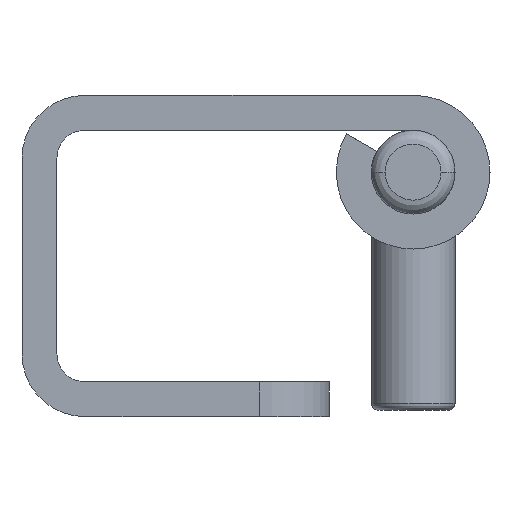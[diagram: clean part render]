
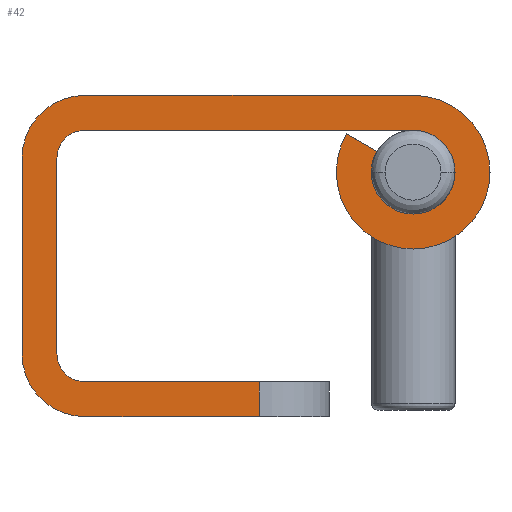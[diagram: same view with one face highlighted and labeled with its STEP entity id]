
A CAD part, front view. The second image highlights one B-rep face of the part: STEP entity #42.
In plain terms, the highlighted planar face has unit normal (0, -1, 0).
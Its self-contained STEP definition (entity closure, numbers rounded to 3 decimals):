
#42=ADVANCED_FACE('',(#110),#1124,.T.);
#110=FACE_OUTER_BOUND('',#182,.T.);
#182=EDGE_LOOP('',(#292,#293,#294,#295,#296,#297,#298,#299,#300,#301,#302,
#303,#304,#305));
#292=ORIENTED_EDGE('',*,*,#620,.F.);
#293=ORIENTED_EDGE('',*,*,#617,.F.);
#294=ORIENTED_EDGE('',*,*,#614,.F.);
#295=ORIENTED_EDGE('',*,*,#611,.F.);
#296=ORIENTED_EDGE('',*,*,#608,.F.);
#297=ORIENTED_EDGE('',*,*,#605,.F.);
#298=ORIENTED_EDGE('',*,*,#602,.F.);
#299=ORIENTED_EDGE('',*,*,#599,.F.);
#300=ORIENTED_EDGE('',*,*,#596,.F.);
#301=ORIENTED_EDGE('',*,*,#592,.F.);
#302=ORIENTED_EDGE('',*,*,#632,.F.);
#303=ORIENTED_EDGE('',*,*,#629,.F.);
#304=ORIENTED_EDGE('',*,*,#626,.F.);
#305=ORIENTED_EDGE('',*,*,#682,.F.);
#592=EDGE_CURVE('',#1008,#1009,#864,.T.);
#596=EDGE_CURVE('',#1009,#1012,#764,.T.);
#599=EDGE_CURVE('',#1012,#1014,#866,.T.);
#602=EDGE_CURVE('',#1014,#1016,#767,.T.);
#605=EDGE_CURVE('',#1016,#1018,#868,.T.);
#608=EDGE_CURVE('',#1018,#1020,#770,.T.);
#611=EDGE_CURVE('',#1020,#1022,#870,.T.);
#614=EDGE_CURVE('',#1022,#1024,#773,.T.);
#617=EDGE_CURVE('',#1024,#1026,#872,.T.);
#620=EDGE_CURVE('',#1026,#1064,#776,.T.);
#626=EDGE_CURVE('',#1070,#1028,#782,.T.);
#629=EDGE_CURVE('',#1028,#1030,#874,.T.);
#632=EDGE_CURVE('',#1030,#1008,#785,.T.);
#682=EDGE_CURVE('',#1064,#1070,#810,.T.);
#764=B_SPLINE_CURVE_WITH_KNOTS('',1,(#1730,#1731),.UNSPECIFIED.,.F.,.F.,
(2,2),(125.517,149.017),.UNSPECIFIED.);
#767=B_SPLINE_CURVE_WITH_KNOTS('',1,(#1744,#1745),.UNSPECIFIED.,.F.,.F.,
(2,2),(177.815,180.315),.UNSPECIFIED.);
#770=B_SPLINE_CURVE_WITH_KNOTS('',1,(#1758,#1759),.UNSPECIFIED.,.F.,.F.,
(2,2),(196.023,219.523),.UNSPECIFIED.);
#773=B_SPLINE_CURVE_WITH_KNOTS('',1,(#1772,#1773),.UNSPECIFIED.,.F.,.F.,
(2,2),(222.664,236.664),.UNSPECIFIED.);
#776=B_SPLINE_CURVE_WITH_KNOTS('',1,(#1786,#1787),.UNSPECIFIED.,.F.,.F.,
(2,2),(239.806,252.306),.UNSPECIFIED.);
#782=B_SPLINE_CURVE_WITH_KNOTS('',1,(#1798,#1799),.UNSPECIFIED.,.F.,.F.,
(2,2),(264.806,277.306),.UNSPECIFIED.);
#785=B_SPLINE_CURVE_WITH_KNOTS('',1,(#1812,#1813),.UNSPECIFIED.,.F.,.F.,
(2,2),(284.375,298.375),.UNSPECIFIED.);
#810=B_SPLINE_CURVE_WITH_KNOTS('',1,(#1928,#1929),.UNSPECIFIED.,.F.,.F.,
(2,2),(0.,2.5),.UNSPECIFIED.);
#864=TRIMMED_CURVE($,#936,(#1721),(#1722),.T.,.CARTESIAN.);
#866=TRIMMED_CURVE($,#938,(#1737),(#1738),.T.,.CARTESIAN.);
#868=TRIMMED_CURVE($,#940,(#1751),(#1752),.T.,.CARTESIAN.);
#870=TRIMMED_CURVE($,#942,(#1765),(#1766),.T.,.CARTESIAN.);
#872=TRIMMED_CURVE($,#944,(#1779),(#1780),.T.,.CARTESIAN.);
#874=TRIMMED_CURVE($,#946,(#1805),(#1806),.T.,.CARTESIAN.);
#936=CIRCLE('',#1306,4.5);
#938=CIRCLE('',#1308,5.5);
#940=CIRCLE('',#1310,3.);
#942=CIRCLE('',#1312,2.);
#944=CIRCLE('',#1314,2.);
#946=CIRCLE('',#1316,4.5);
#1008=VERTEX_POINT('',#1652);
#1009=VERTEX_POINT('',#1653);
#1012=VERTEX_POINT('',#1656);
#1014=VERTEX_POINT('',#1658);
#1016=VERTEX_POINT('',#1660);
#1018=VERTEX_POINT('',#1662);
#1020=VERTEX_POINT('',#1664);
#1022=VERTEX_POINT('',#1666);
#1024=VERTEX_POINT('',#1668);
#1026=VERTEX_POINT('',#1670);
#1028=VERTEX_POINT('',#1672);
#1030=VERTEX_POINT('',#1674);
#1064=VERTEX_POINT('',#1708);
#1070=VERTEX_POINT('',#1714);
#1124=PLANE('',#1278);
#1278=AXIS2_PLACEMENT_3D('',#1624,#1415,$);
#1306=AXIS2_PLACEMENT_3D($,#1720,#1443,#1444);
#1308=AXIS2_PLACEMENT_3D($,#1736,#1447,#1448);
#1310=AXIS2_PLACEMENT_3D($,#1750,#1451,#1452);
#1312=AXIS2_PLACEMENT_3D($,#1764,#1455,#1456);
#1314=AXIS2_PLACEMENT_3D($,#1778,#1459,#1460);
#1316=AXIS2_PLACEMENT_3D($,#1804,#1463,#1464);
#1415=DIRECTION('',(0.,-1.,0.));
#1443=DIRECTION('',(0.,1.,0.));
#1444=DIRECTION('',(-1.,0.,0.));
#1447=DIRECTION('',(0.,1.,0.));
#1448=DIRECTION('',(0.,0.,1.));
#1451=DIRECTION('',(0.,-1.,0.));
#1452=DIRECTION('',(-0.866,0.,0.5));
#1455=DIRECTION('',(0.,-1.,0.));
#1456=DIRECTION('',(0.,0.,1.));
#1459=DIRECTION('',(0.,-1.,0.));
#1460=DIRECTION('',(-1.,0.,0.));
#1463=DIRECTION('',(0.,1.,0.));
#1464=DIRECTION('',(0.,0.,-1.));
#1624=CARTESIAN_POINT('',(-15.419,-45.,28.517));
#1652=CARTESIAN_POINT('',(-11.232,-45.,21.142));
#1653=CARTESIAN_POINT('',(-6.732,-45.,25.642));
#1656=CARTESIAN_POINT('',(16.768,-45.,25.642));
#1658=CARTESIAN_POINT('',(12.005,-45.,22.892));
#1660=CARTESIAN_POINT('',(14.17,-45.,21.642));
#1662=CARTESIAN_POINT('',(16.768,-45.,23.142));
#1664=CARTESIAN_POINT('',(-6.732,-45.,23.142));
#1666=CARTESIAN_POINT('',(-8.732,-45.,21.142));
#1668=CARTESIAN_POINT('',(-8.732,-45.,7.142));
#1670=CARTESIAN_POINT('',(-6.732,-45.,5.142));
#1672=CARTESIAN_POINT('',(-6.732,-45.,2.642));
#1674=CARTESIAN_POINT('',(-11.232,-45.,7.142));
#1708=CARTESIAN_POINT('',(5.768,-45.,5.142));
#1714=CARTESIAN_POINT('',(5.768,-45.,2.642));
#1720=CARTESIAN_POINT('',(-6.732,-45.,21.142));
#1721=CARTESIAN_POINT('',(-11.232,-45.,21.142));
#1722=CARTESIAN_POINT('',(-6.732,-45.,25.642));
#1730=CARTESIAN_POINT('',(-6.732,-45.,25.642));
#1731=CARTESIAN_POINT('',(16.768,-45.,25.642));
#1736=CARTESIAN_POINT('',(16.768,-45.,20.142));
#1737=CARTESIAN_POINT('',(16.768,-45.,25.642));
#1738=CARTESIAN_POINT('',(12.005,-45.,22.892));
#1744=CARTESIAN_POINT('',(12.005,-45.,22.892));
#1745=CARTESIAN_POINT('',(14.17,-45.,21.642));
#1750=CARTESIAN_POINT('',(16.768,-45.,20.142));
#1751=CARTESIAN_POINT('',(14.17,-45.,21.642));
#1752=CARTESIAN_POINT('',(16.768,-45.,23.142));
#1758=CARTESIAN_POINT('',(16.768,-45.,23.142));
#1759=CARTESIAN_POINT('',(-6.732,-45.,23.142));
#1764=CARTESIAN_POINT('',(-6.732,-45.,21.142));
#1765=CARTESIAN_POINT('',(-6.732,-45.,23.142));
#1766=CARTESIAN_POINT('',(-8.732,-45.,21.142));
#1772=CARTESIAN_POINT('',(-8.732,-45.,21.142));
#1773=CARTESIAN_POINT('',(-8.732,-45.,7.142));
#1778=CARTESIAN_POINT('',(-6.732,-45.,7.142));
#1779=CARTESIAN_POINT('',(-8.732,-45.,7.142));
#1780=CARTESIAN_POINT('',(-6.732,-45.,5.142));
#1786=CARTESIAN_POINT('',(-6.732,-45.,5.142));
#1787=CARTESIAN_POINT('',(5.768,-45.,5.142));
#1798=CARTESIAN_POINT('',(5.768,-45.,2.642));
#1799=CARTESIAN_POINT('',(-6.732,-45.,2.642));
#1804=CARTESIAN_POINT('',(-6.732,-45.,7.142));
#1805=CARTESIAN_POINT('',(-6.732,-45.,2.642));
#1806=CARTESIAN_POINT('',(-11.232,-45.,7.142));
#1812=CARTESIAN_POINT('',(-11.232,-45.,7.142));
#1813=CARTESIAN_POINT('',(-11.232,-45.,21.142));
#1928=CARTESIAN_POINT('',(5.768,-45.,5.142));
#1929=CARTESIAN_POINT('',(5.768,-45.,2.642));
